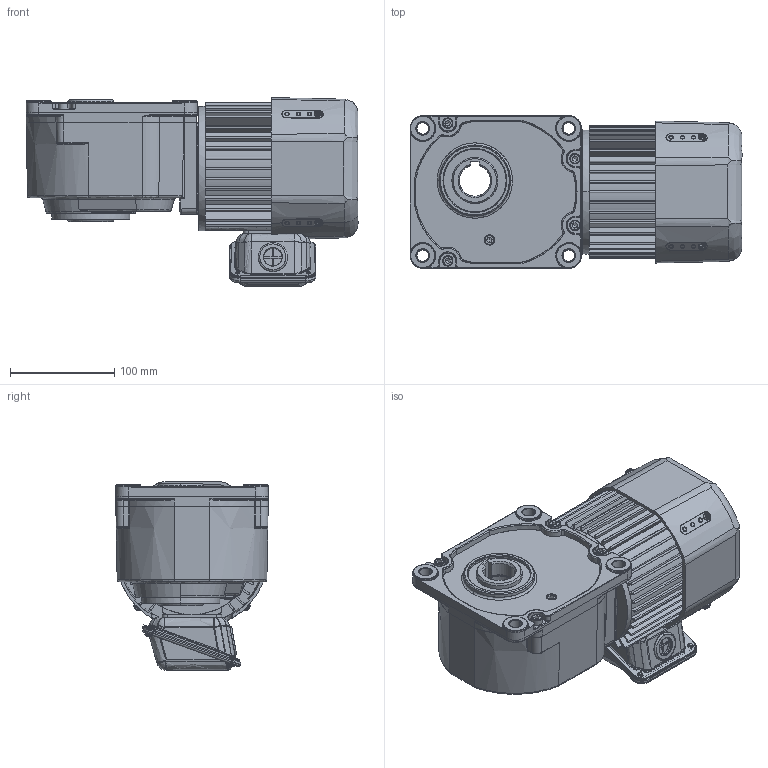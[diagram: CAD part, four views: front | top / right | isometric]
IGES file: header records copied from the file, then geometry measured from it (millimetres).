
Start section: SolidWorks IGES file using analytic representation for surfaces
Global section: file name: \\100.100.100.8\1_共有作業フォルダ\1-5_３Ｄデータ\solidworks\personal-folder\H.Nagayama\HF外形\HF\sldasm\TMHFB-01-(5~240).IGS; native system: SolidWorks 2018; preprocessor: SolidWorks 2018; author: sigma-giken; date: 200219.163014; units: millimetre
Bounding box: 318.27 x 146.35 x 181 mm (x, y, z)
Surface area: 466630.1 mm2 (no closed solid volume)
Topology: 0 solids, 0 shells, 1956 faces, 25009 edges, 24963 vertices
Faces by surface type: revolution 980, bspline 976
